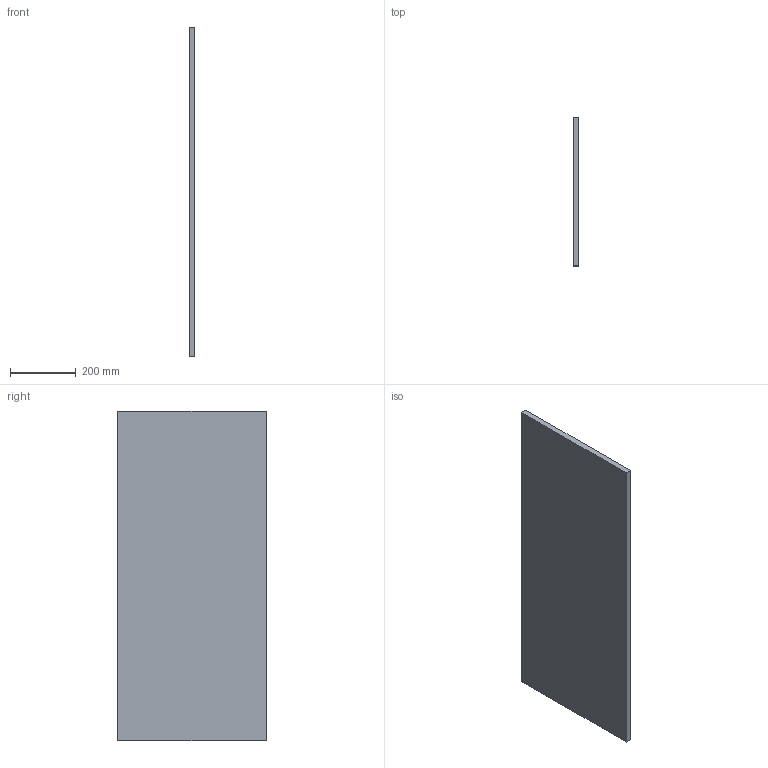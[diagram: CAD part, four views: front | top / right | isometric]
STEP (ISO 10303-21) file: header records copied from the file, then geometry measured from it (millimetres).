
FILE_DESCRIPTION(('Open CASCADE Model'),'2;1');
FILE_NAME('Open CASCADE Shape Model','2026-10-28T20:18:39',('Author'),( 'Open CASCADE'),'Open CASCADE STEP processor 7.8','Open CASCADE 7.8' ,'Unknown');
FILE_SCHEMA(('AUTOMOTIVE_DESIGN { 1 0 10303 214 1 1 1 1 }'));
Length unit declared in the file: millimetre
Products named in the file (1): Open CASCADE STEP translator 7.8 16
Bounding box: 18 x 450 x 1000 mm (x, y, z)
Volume: 8100000 mm3; surface area: 952200 mm2
Topology: 1 solids, 1 shells, 6 faces, 12 edges, 8 vertices
Faces by surface type: plane 6
Entity records: 322 total; most frequent: CARTESIAN_POINT 51, DIRECTION 50, LINE 36, VECTOR 36, ORIENTED_EDGE 24, PCURVE 24, DEFINITIONAL_REPRESENTATION 24, EDGE_CURVE 12
